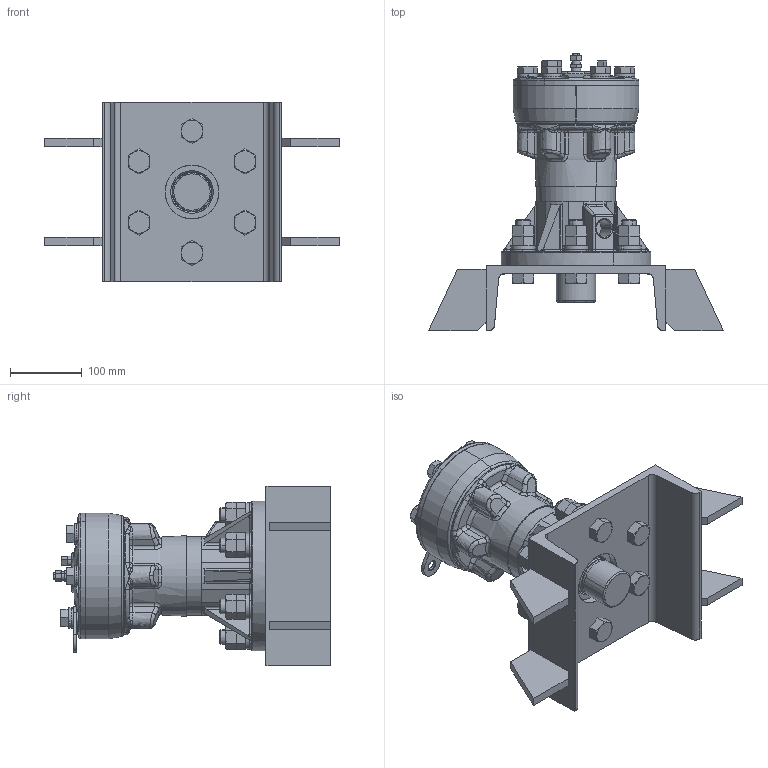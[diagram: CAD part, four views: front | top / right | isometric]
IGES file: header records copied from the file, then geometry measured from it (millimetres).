
Start section: SolidWorks IGES file using analytic representation for surfaces
Global section: file name: V:\WORK\08133\HP 寸法図\knocker\RKD100PA\test_A47000P-000 RKD100PA_defeature.IGS,15; native system: HSolidWorks 2018; preprocessor: SolidWorks 2018; author: n-udagawa; date: 230113.154816; units: millimetre
Bounding box: 410 x 385.8 x 250 mm (x, y, z)
Surface area: 491208.9 mm2 (no closed solid volume)
Topology: 0 solids, 0 shells, 1043 faces, 17103 edges, 19457 vertices
Faces by surface type: bspline 602, revolution 441
